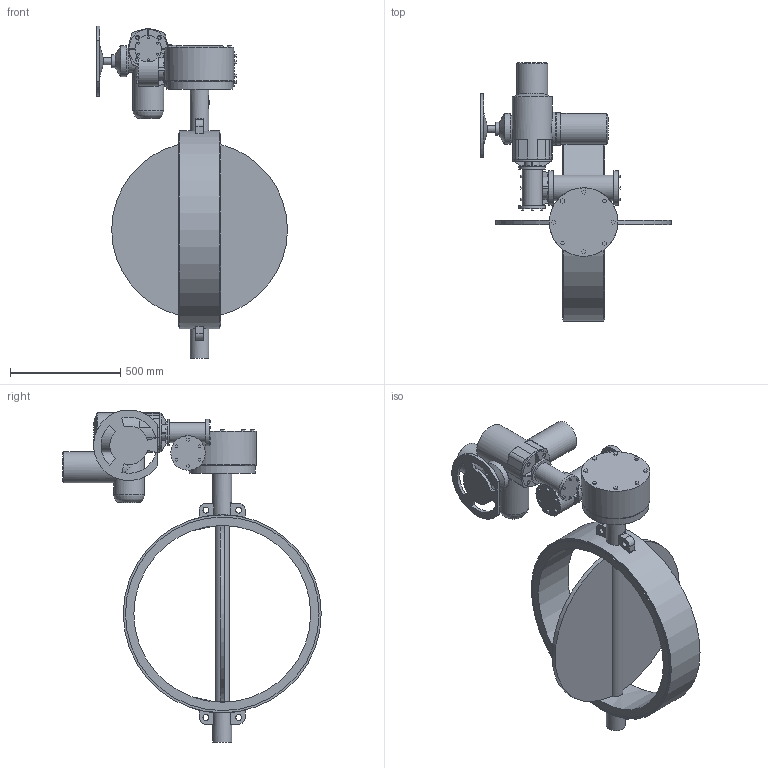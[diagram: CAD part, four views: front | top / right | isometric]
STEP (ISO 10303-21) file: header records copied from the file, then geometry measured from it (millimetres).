
FILE_DESCRIPTION(('STEP AP203'), '1');
FILE_NAME('青蜮铕 017W.YS_DN800_PN10_MT903.A30', '', ('UNSPECIFIED'), ('UNSPECIFIED'), 'ASCON STEP Converter 1.6', 'ASCON Math Kernel', '');
FILE_SCHEMA(('CONFIG_CONTROL_DESIGN'));
Length unit declared in the file: millimetre
Bounding box: 864.2 x 1170 x 1502.49 mm (x, y, z)
Volume: 79158266.2 mm3; surface area: 3802862.6 mm2
Topology: 1 solids, 1 shells, 550 faces, 1412 edges, 931 vertices
Faces by surface type: plane 411, cylinder 98, cone 25, torus 16
Full cylindrical faces by diameter (mm): 13.835 x8, 14 x4, 18 x12, 26.211 x4, 32 x1, 60 x1, 65 x1, 85 x2, 90 x1, 100 x1, 116 x1, 120 x2, 140 x4, 147 x1, 151 x1, 156 x3, 175 x1, 300 x1, 310 x1, 800 x1, 876 x2, 896 x1
Entity records: 23743 total; most frequent: CARTESIAN_POINT 6202, ORIENTED_EDGE 2646, DIRECTION 2577, EDGE_CURVE 1323, LINE 989, VECTOR 989, VERTEX_POINT 924, AXIS2_PLACEMENT_3D 794
